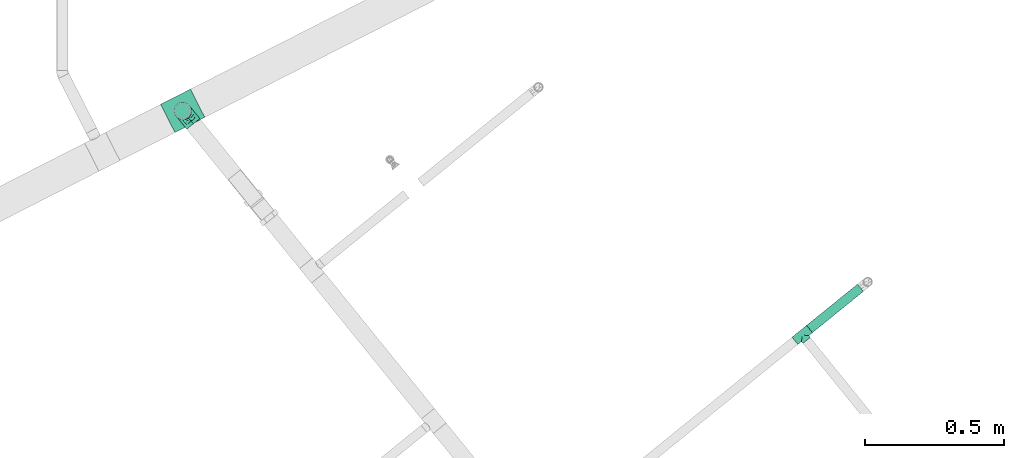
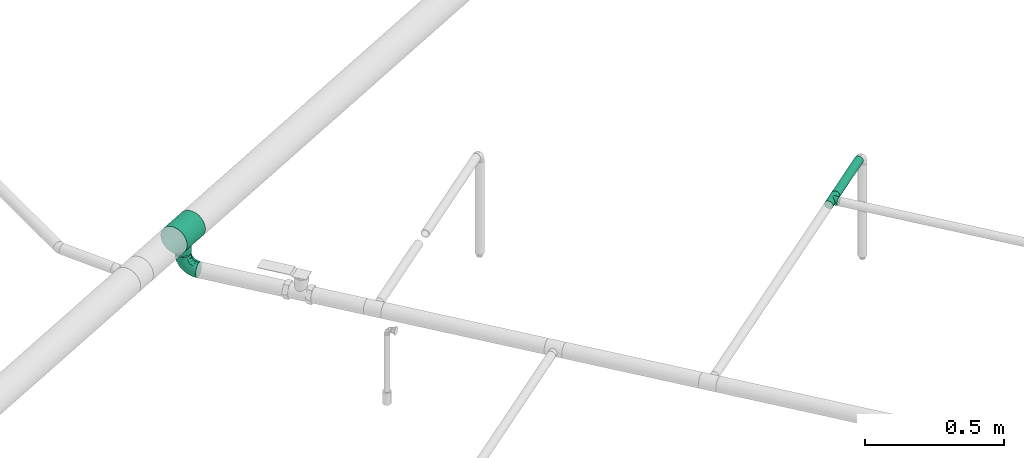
# One storey, part 19 of 94: 3 flow fittings, 1 flow segment.
"""IFC2X3 building model written with IfcOpenShell, lengths in millimetres."""

from ifc_helpers import new_model, entity, si_unit, converted_unit, derived_unit, direction, frame, origin_with_axes, origin_2d_with_axis, place, context, subcontext, project, spatial, hollow_circle, extrude, open_shell, surface_model, source, transform, mapped, type_object, element, save


model = new_model("IFC2X3")

# Units and contexts
model_context = context("Model", 3, precision=0.01, world=frame((0.0, 4.29681676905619e-09, 0.0)), true_north=direction((4.01073788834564e-13, 1.0)))
plan_context = context("Plan", 3, precision=0.01, world=frame((0.0, 4.29681676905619e-09, 0.0)), true_north=direction((4.01073788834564e-13, 1.0)))
body_context = subcontext(model_context, "Body", "Model", "MODEL_VIEW")
ifc_project = project(units=[converted_unit("PLANEANGLEUNIT", "DEGREE", entity("IfcPositiveLengthMeasure", 0.0174532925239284), si_unit("PLANEANGLEUNIT", "RADIAN"), dimensions=[0, 0, 0, 0, 0, 0, 0]), si_unit("AREAUNIT", "SQUARE_METRE"), si_unit("LENGTHUNIT", "METRE", prefix="MILLI"), si_unit("MASSUNIT", "GRAM", prefix="KILO"), si_unit("POWERUNIT", "WATT"), si_unit("PRESSUREUNIT", "PASCAL", prefix="KILO"), si_unit("FORCEUNIT", "NEWTON", prefix="KILO"), si_unit("ELECTRICVOLTAGEUNIT", "VOLT"), si_unit("ELECTRICCURRENTUNIT", "AMPERE"), si_unit("THERMODYNAMICTEMPERATUREUNIT", "DEGREE_CELSIUS"), si_unit("TIMEUNIT", "SECOND"), si_unit("VOLUMEUNIT", "CUBIC_METRE"), derived_unit("LINEARVELOCITYUNIT", [(si_unit("LENGTHUNIT", "METRE"), 1), (si_unit("TIMEUNIT", "SECOND"), -1)]), derived_unit("VOLUMETRICFLOWRATEUNIT", [(si_unit("VOLUMEUNIT", "CUBIC_METRE"), 1), (si_unit("TIMEUNIT", "SECOND"), -1)]), derived_unit("THERMALTRANSMITTANCEUNIT", [(si_unit("POWERUNIT", "WATT"), 1), (si_unit("THERMODYNAMICTEMPERATUREUNIT", "KELVIN"), -1), (si_unit("AREAUNIT", "SQUARE_METRE"), -1)]), derived_unit("SOUNDPRESSUREUNIT", [(si_unit("PRESSUREUNIT", "PASCAL"), 1)])], contexts=[model_context, plan_context])

# Site, building, storey
site_placement = place(None, frame((0.0, -4.29681676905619e-09, 0.0), z_axis=(0.0, 0.0, 1.0), x_axis=(1.0, 0.0, 0.0)))
site = spatial("IfcSite", under=ifc_project, at=site_placement, CompositionType="ELEMENT")
building_placement = place(site_placement, frame((0.0, 4.29681676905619e-09, 0.0), z_axis=(0.0, 0.0, 1.0), x_axis=(1.0, 0.0, 0.0)))
building = spatial("IfcBuilding", under=site, at=building_placement, Name="mc-building", CompositionType="ELEMENT")
storey_placement = place(building_placement, frame((0.0, 0.0, 210900.0), z_axis=(0.0, 0.0, 1.0), x_axis=(1.0, 0.0, 0.0)))
storey = spatial("IfcBuildingStorey", under=building, at=storey_placement, Name="Nivå F", CompositionType="ELEMENT", Elevation=210900.0)

# Flow fittings
pipe_fitting_type_1 = type_object("IfcPipeFittingType", Name="magi_pipe_fe_tee_centric_90_NOR", PredefinedType="JUNCTION")
shared_shape_1 = source(origin_with_axes(), body_context, "Body", "SurfaceModel", [
    surface_model("IfcShellBasedSurfaceModel", [(-33.8, 4.37404, -16.32415), (-33.8, 0.0, -16.9), (-33.8, 16.32415, -4.37404), (-33.8, 8.45, -14.63583), (-33.8, 11.9501, -11.9501), (-33.8, 14.63583, -8.45), (-33.8, -16.9, 0.0), (-33.8, -11.9501, -11.9501), (-33.8, -14.63583, -8.45), (-33.8, -8.45, -14.63583), (-33.8, -4.37404, -16.32415), (-33.8, -16.32415, -4.37404), (-33.8, 14.63583, 8.45), (-33.8, 16.32415, 4.37404), (-33.8, -8.45, 14.63583), (-33.8, 8.45, 14.63583), (-33.8, 11.9501, 11.9501), (-33.8, 4.37404, 16.32415), (-33.8, 0.0, 16.9), (-33.8, -11.9501, 11.9501), (-33.8, -14.63583, 8.45), (-33.8, -16.32415, 4.37404), (-33.8, -4.37404, 16.32415), (-33.8, 16.9, 0.0), (33.8, 4.37404, -16.32415), (33.8, -16.9, 0.0), (33.8, 0.0, -16.9), (33.8, 14.63583, -8.45), (33.8, 8.45, -14.63583), (33.8, 16.32415, -4.37404), (33.8, 11.9501, -11.9501), (33.8, -16.32415, 4.37404), (33.8, -8.45, -14.63583), (33.8, -4.37404, -16.32415), (33.8, -11.9501, -11.9501), (33.8, -14.63583, -8.45), (33.8, -16.32415, -4.37404), (33.8, 16.32415, 4.37404), (33.8, 8.45, 14.63583), (33.8, 14.63583, 8.45), (33.8, 11.9501, 11.9501), (33.8, -8.45, 14.63583), (33.8, 4.37404, 16.32415), (33.8, -14.63583, 8.45), (33.8, -11.9501, 11.9501), (33.8, 0.0, 16.9), (33.8, -4.37404, 16.32415), (33.8, 16.9, 0.0), (16.28698, -16.28698, 4.51047), (16.9, -16.9, 0.0), (14.62704, -14.62704, 8.4652), (9.47213, -9.47213, 13.99602), (12.26343, -12.26343, 11.62834), (-16.9, -16.9, 0.0), (-16.28698, -16.28698, 4.51047), (-14.62704, -14.62704, 8.4652), (-12.26343, -12.26343, 11.62834), (-9.47213, -9.47213, 13.99602), (-6.42894, -6.42894, 15.62942), (6.42894, -6.42894, 15.62942), (3.24522, -3.24522, 16.58549), (0.0, 0.0, 16.9), (-3.24522, -3.24522, 16.58549), (3.24522, -3.24522, -16.58549), (0.0, 0.0, -16.9), (-3.24522, -3.24522, -16.58549), (-6.42894, -6.42894, -15.62942), (6.42894, -6.42894, -15.62942), (9.47213, -9.47213, -13.99602), (12.26343, -12.26343, -11.62834), (14.62704, -14.62704, -8.4652), (16.28698, -16.28698, -4.51047), (-9.47213, -9.47213, -13.99602), (-12.26343, -12.26343, -11.62834), (-16.28698, -16.28698, -4.51047), (-14.62704, -14.62704, -8.4652), (4.37404, -25.35, -16.32415), (-16.9, -25.35, 0.0), (0.0, -25.35, -16.9), (14.63583, -25.35, -8.45), (8.45, -25.35, -14.63583), (16.32415, -25.35, -4.37404), (11.9501, -25.35, -11.9501), (-11.9501, -25.35, -11.9501), (-8.45, -25.35, -14.63583), (-4.37404, -25.35, -16.32415), (-14.63583, -25.35, -8.45), (-16.32415, -25.35, -4.37404), (16.9, -25.35, 0.0), (8.45, -25.35, 14.63583), (16.32415, -25.35, 4.37404), (14.63583, -25.35, 8.45), (-8.45, -25.35, 14.63583), (11.9501, -25.35, 11.9501), (4.37404, -25.35, 16.32415), (-16.32415, -25.35, 4.37404), (-11.9501, -25.35, 11.9501), (-14.63583, -25.35, 8.45), (0.0, -25.35, 16.9), (-4.37404, -25.35, 16.32415)], [open_shell([[[0, 1, 2]], [[3, 0, 4]], [[0, 2, 5]], [[4, 0, 5]], [[6, 2, 1]], [[7, 8, 9]], [[1, 10, 9]], [[11, 6, 8]], [[1, 9, 8]], [[1, 8, 6]], [[6, 12, 2]], [[12, 13, 2]], [[14, 12, 6]], [[12, 14, 15]], [[16, 12, 15]], [[17, 15, 18]], [[19, 14, 20]], [[21, 20, 14]], [[22, 18, 14]], [[14, 6, 21]], [[14, 18, 15]], [[23, 2, 13]], [[24, 25, 26]], [[27, 24, 28]], [[27, 29, 24]], [[27, 28, 30]], [[31, 25, 24]], [[26, 32, 33]], [[26, 34, 32]], [[35, 25, 36]], [[35, 34, 26]], [[25, 35, 26]], [[24, 29, 31]], [[29, 37, 38]], [[38, 37, 39]], [[38, 31, 29]], [[38, 39, 40]], [[41, 38, 42]], [[43, 41, 44]], [[41, 43, 31]], [[41, 45, 46]], [[41, 31, 38]], [[42, 45, 41]], [[29, 47, 37]], [[31, 43, 48]], [[25, 31, 49]], [[49, 31, 48]], [[43, 50, 48]], [[44, 41, 51]], [[50, 43, 52]], [[51, 52, 44]], [[52, 43, 44]], [[53, 54, 21]], [[53, 21, 6]], [[21, 54, 20]], [[54, 55, 20]], [[56, 57, 19]], [[19, 20, 56]], [[19, 57, 14]], [[56, 20, 55]], [[14, 57, 58]], [[51, 41, 59]], [[60, 45, 61]], [[59, 46, 60]], [[46, 59, 41]], [[60, 46, 45]], [[61, 45, 42]], [[39, 37, 13]], [[16, 38, 40]], [[12, 40, 39]], [[42, 38, 15]], [[23, 37, 47]], [[62, 61, 18]], [[62, 22, 58]], [[22, 62, 18]], [[58, 22, 14]], [[61, 17, 18]], [[42, 17, 61]], [[15, 17, 42]], [[15, 38, 16]], [[12, 16, 40]], [[13, 12, 39]], [[37, 23, 13]], [[5, 27, 30]], [[23, 47, 29]], [[30, 28, 3]], [[27, 2, 29]], [[26, 33, 63]], [[26, 64, 24]], [[64, 26, 63]], [[28, 24, 0]], [[64, 0, 24]], [[4, 30, 3]], [[2, 27, 5]], [[5, 30, 4]], [[2, 23, 29]], [[65, 66, 10]], [[1, 0, 64]], [[1, 65, 10]], [[66, 9, 10]], [[0, 3, 28]], [[1, 64, 65]], [[63, 33, 67]], [[32, 34, 68]], [[69, 68, 34]], [[35, 70, 69]], [[69, 34, 35]], [[32, 68, 67]], [[36, 25, 49]], [[36, 71, 35]], [[71, 36, 49]], [[35, 71, 70]], [[72, 9, 66]], [[72, 7, 9]], [[7, 72, 73]], [[7, 73, 8]], [[74, 53, 11]], [[75, 74, 8]], [[74, 11, 8]], [[11, 53, 6]], [[75, 8, 73]], [[32, 67, 33]], [[76, 77, 78]], [[79, 76, 80]], [[79, 81, 76]], [[79, 80, 82]], [[77, 76, 81]], [[78, 83, 84]], [[84, 85, 78]], [[86, 77, 87]], [[83, 78, 86]], [[77, 86, 78]], [[81, 88, 77]], [[89, 88, 90]], [[89, 90, 91]], [[92, 77, 89]], [[89, 91, 93]], [[92, 89, 94]], [[95, 96, 97]], [[96, 95, 92]], [[92, 98, 99]], [[95, 77, 92]], [[94, 98, 92]], [[89, 77, 88]], [[77, 95, 53]], [[54, 53, 95]], [[97, 96, 56]], [[96, 92, 57]], [[95, 97, 54]], [[58, 92, 99]], [[55, 54, 97]], [[56, 55, 97]], [[58, 57, 92]], [[98, 61, 62]], [[58, 99, 62]], [[56, 96, 57]], [[62, 99, 98]], [[94, 60, 98]], [[89, 59, 94]], [[91, 90, 48]], [[52, 93, 91]], [[93, 51, 89]], [[49, 90, 88]], [[59, 60, 94]], [[51, 59, 89]], [[49, 48, 90]], [[50, 52, 91]], [[48, 50, 91]], [[51, 93, 52]], [[98, 60, 61]], [[88, 81, 49]], [[71, 49, 81]], [[79, 82, 69]], [[82, 80, 68]], [[81, 79, 71]], [[67, 80, 76]], [[70, 71, 79]], [[69, 70, 79]], [[67, 68, 80]], [[78, 64, 63]], [[67, 76, 63]], [[69, 82, 68]], [[63, 76, 78]], [[85, 65, 78]], [[84, 66, 85]], [[86, 87, 74]], [[86, 73, 83]], [[72, 84, 83]], [[53, 87, 77]], [[66, 65, 85]], [[72, 66, 84]], [[53, 74, 87]], [[75, 73, 86]], [[74, 75, 86]], [[72, 83, 73]], [[78, 65, 64]]])]),
])
flow_fitting_1_placement = place(storey_placement, frame((726485.43467, 444568.60241, 3500.0), z_axis=(0.0, 0.0, -1.0), x_axis=(-0.777146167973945, -0.629320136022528, 0.0)))
element("IfcFlowFitting", 1, at=flow_fitting_1_placement, inside=storey, type_object=pipe_fitting_type_1, Name="magi_pipe_fe_tee_centric_90_NOR", context=body_context, shape_type="MappedRepresentation", body=[
    mapped(shared_shape_1, transform((0.0, 0.0, 0.0), scale=1.0)),
])
pipe_fitting_type_2 = type_object("IfcPipeFittingType", Name="magi_pipe_fe_elbow_short_001", PredefinedType="BEND")
shared_shape_2 = source(origin_with_axes(), body_context, "Body", "SurfaceModel", [
    surface_model("IfcShellBasedSurfaceModel", [(-60.4, 15.1, -26.15397), (-60.4, 7.81634, -29.17096), (-60.4, 0.0, -30.2), (-60.4, -21.35462, -21.35462), (-60.4, 26.15397, -15.1), (-60.4, 21.35462, -21.35462), (-60.4, 29.17096, -7.81634), (-60.4, -15.1, -26.15397), (-60.4, -7.81634, -29.17096), (-60.4, -26.15397, -15.1), (-60.4, -29.17096, -7.81634), (-60.4, -30.2, 0.0), (-60.4, -29.17096, 7.81634), (-60.4, 29.17096, 7.81634), (-60.4, -21.35462, 21.35462), (-60.4, 26.15397, 15.1), (-60.4, 21.35462, 21.35462), (-60.4, 7.81634, 29.17096), (-60.4, 15.1, 26.15397), (-60.4, -26.15397, 15.1), (-60.4, -7.81634, 29.17096), (-60.4, 0.0, 30.2), (-60.4, -15.1, 26.15397), (-60.4, 30.2, 0.0), (0.0, 60.4, -30.2), (-7.81634, 60.4, -29.17096), (-15.1, 60.4, -26.15397), (-26.15397, 60.4, -15.1), (-29.17096, 60.4, -7.81634), (-21.35462, 60.4, -21.35462), (29.17096, 60.4, -7.81634), (7.81634, 60.4, -29.17096), (21.35462, 60.4, -21.35462), (15.1, 60.4, -26.15397), (26.15397, 60.4, -15.1), (29.17096, 60.4, 7.81634), (30.2, 60.4, 0.0), (-29.17096, 60.4, 7.81634), (21.35462, 60.4, 21.35462), (-21.35462, 60.4, 21.35462), (-26.15397, 60.4, 15.1), (-15.1, 60.4, 26.15397), (-7.81634, 60.4, 29.17096), (26.15397, 60.4, 15.1), (15.1, 60.4, 26.15397), (0.0, 60.4, 30.2), (7.81634, 60.4, 29.17096), (-30.2, 60.4, 0.0), (-40.79975, -26.48639, 9.49143), (-44.2927, -23.46036, 16.95222), (-32.40306, -25.76572, 0.0), (-45.54716, -27.84754, 0.0), (-7.73382, -10.42985, 11.64553), (-2.102, -8.06735, 6.35117), (1.74449, -1.74448, 12.51332), (-46.13593, -4.00068, 29.68351), (-42.2898, 4.62925, 30.14853), (10.31662, 7.37496, 11.34434), (18.44156, 24.57514, 15.02148), (7.07276, 10.95732, 19.27498), (-30.06693, -0.27102, 29.27145), (-44.17726, -11.39441, 27.16031), (-23.4551, -7.13383, 25.24246), (-38.74025, -17.25266, 22.43475), (-27.059, -23.14697, 6.2131), (-19.77486, -19.33133, 0.0), (-10.95732, -7.07276, 19.27498), (-5.39458, 5.39458, 24.69106), (-29.52069, 48.20084, 13.12597), (-25.22813, 47.01796, 19.8404), (-11.27311, 52.093, 28.2877), (-4.13904, 45.17494, 30.12582), (-46.55352, 11.8443, 28.52822), (-7.88305, 20.22717, 29.65331), (-15.00576, 5.54025, 28.20072), (-3.0852, 16.31623, 27.75343), (-52.24998, 18.2886, 24.60768), (-10.49591, 29.69865, 30.14582), (-22.36958, 22.36958, 29.4662), (-17.98262, 13.19715, 30.04443), (-47.74519, 32.16745, 6.63994), (-48.21585, 29.51581, 13.12396), (-37.49729, 37.49729, 11.28901), (-47.20967, 25.1754, 19.81929), (17.25266, 38.74025, 22.43475), (-31.32046, 40.03273, 17.09289), (11.39441, 44.17725, 27.16031), (23.46036, 44.2927, 16.95222), (26.48639, 40.79975, 9.49143), (-7.14666, -12.89694, 0.0), (-14.66463, -16.61192, 7.82462), (4.00068, 46.13593, 29.68351), (-33.18602, 12.93608, 29.65955), (-29.63414, 7.40029, 30.18711), (19.33133, 19.77486, 0.0), (23.14697, 27.059, 6.2131), (16.61192, 14.66463, 7.82462), (27.84754, 45.54716, 0.0), (-32.10611, 20.49149, 27.93323), (-24.57514, -18.44156, 15.02148), (-21.89487, 39.03366, 25.38224), (-18.45005, 50.6405, 24.73297), (-31.78933, 48.71949, 6.47886), (-37.84917, 39.61073, 5.315), (13.91334, 24.32737, 20.46816), (7.13383, 23.4551, 25.24246), (-34.24603, 45.3, 0.0), (-27.95749, 31.89166, 24.81537), (-41.58677, 20.50028, 25.43151), (-0.46157, 0.46157, 17.84239), (-17.23338, 31.26213, 29.03145), (-24.05994, 29.23812, 27.47858), (-13.06094, 40.92174, 28.76128), (-31.83392, 33.72702, 21.39203), (-38.78737, 32.45032, 16.84022), (0.27102, 30.06693, 29.27145), (-24.21469, -13.23741, 21.05734), (8.23548, 2.19333, 6.02161), (25.76572, 32.40306, 0.0), (12.89694, 7.14666, 0.0), (-45.3, 34.24603, 0.0), (2.87514, -2.87514, 0.0), (-44.53432, 26.00869, -20.11577), (-48.18822, 29.5248, -13.12766), (-24.67192, -7.62159, -25.33714), (-26.22398, -0.37671, -28.72374), (-12.13397, -0.50536, -24.74577), (-47.80891, 3.81859, -30.10171), (-44.05719, -27.03585, -9.84546), (-37.94552, -22.39569, -16.35738), (-28.81663, -22.64668, -10.132), (-43.93799, 12.32789, -28.63778), (-33.27, 7.1392, -30.19348), (-26.0087, 44.53432, -20.11577), (-48.89164, 31.68872, -6.60822), (-18.95522, 47.41145, -24.9828), (-12.32789, 43.93799, -28.63778), (-38.42778, 38.42778, -7.21049), (18.04263, 43.69152, -22.80146), (10.42233, 38.24532, -26.85918), (11.90576, 51.00473, -27.48545), (-5.88381, -10.62327, -7.95335), (-5.9694, -7.83116, -13.76182), (3.24899, -2.56331, -7.96861), (-17.62229, 16.32998, -30.18286), (-28.62959, 17.86952, -29.30113), (-47.41145, 18.95522, -24.98279), (-50.84455, -24.04089, -17.54629), (-29.38053, 34.30665, -22.74674), (-27.91099, 27.91099, -26.51666), (-36.91219, 25.51094, -23.99233), (2.63361, -0.55507, -12.94367), (-43.69152, -18.04263, -22.80146), (22.39569, 37.94552, -16.35738), (27.03585, 44.05719, -9.84546), (22.64668, 28.81663, -10.132), (-51.00473, -11.90576, -27.48545), (3.80785, 44.49426, -29.64782), (-19.0921, -14.69952, -16.47487), (-22.5489, -12.31934, -21.1263), (-10.94772, -7.46239, -18.88204), (-32.95885, -13.78948, -23.71249), (-38.24532, -10.42233, -26.85918), (-44.49427, -3.80785, -29.64782), (-22.6301, 37.15314, -25.58239), (-31.68872, 48.89164, -6.60822), (-3.8186, 47.80891, -30.10171), (-10.66133, 10.66133, -28.51691), (0.37671, 26.22398, -28.72374), (1.27136, 14.18619, -25.18541), (-29.5248, 48.18821, -13.12766), (-36.27113, 36.27113, -14.88553), (24.04089, 50.84455, -17.54629), (17.50188, 24.2636, -16.21902), (9.73525, 11.44907, -16.75087), (12.31934, 22.5489, -21.1263), (6.24176, 25.78208, -26.38266), (-7.1392, 33.27, -30.19348), (-36.7166, 19.4356, -27.21946), (-18.00754, 29.38864, -29.15505), (-0.28629, 0.28629, -17.49884), (-13.98848, -16.88492, -5.19509), (15.48569, 15.00432, -11.24742), (16.88492, 13.98848, -5.19509), (3.55782, 9.20508, -21.18402), (-15.00432, -15.48569, -11.24742)], [open_shell([[[0, 1, 2]], [[0, 2, 3]], [[4, 0, 3]], [[5, 0, 4]], [[6, 4, 3]], [[7, 3, 8]], [[3, 2, 8]], [[9, 10, 3]], [[3, 10, 6]], [[11, 12, 10]], [[13, 6, 10]], [[13, 10, 14]], [[15, 13, 16]], [[17, 18, 16]], [[13, 17, 16]], [[17, 13, 14]], [[19, 14, 12]], [[12, 14, 10]], [[20, 21, 22]], [[17, 14, 22]], [[17, 22, 21]], [[13, 23, 6]], [[24, 25, 26]], [[24, 26, 27]], [[27, 28, 24]], [[27, 26, 29]], [[24, 28, 30]], [[31, 32, 33]], [[31, 24, 32]], [[32, 30, 34]], [[24, 30, 32]], [[30, 35, 36]], [[30, 28, 37]], [[38, 30, 37]], [[39, 37, 40]], [[39, 41, 42]], [[39, 42, 37]], [[38, 37, 42]], [[35, 38, 43]], [[30, 38, 35]], [[44, 45, 46]], [[44, 38, 42]], [[45, 44, 42]], [[28, 47, 37]], [[48, 49, 19]], [[50, 48, 51]], [[52, 53, 54]], [[12, 48, 19]], [[12, 51, 48]], [[21, 55, 56]], [[19, 49, 14]], [[57, 58, 59]], [[60, 61, 62]], [[63, 22, 14]], [[63, 61, 22]], [[64, 50, 65]], [[62, 66, 67]], [[40, 68, 69]], [[42, 70, 71]], [[17, 72, 18]], [[73, 74, 75]], [[18, 76, 16]], [[20, 55, 21]], [[77, 78, 79]], [[80, 81, 82]], [[15, 83, 81]], [[84, 38, 44]], [[23, 13, 80]], [[13, 15, 81]], [[68, 85, 69]], [[83, 15, 16]], [[21, 56, 17]], [[44, 86, 84]], [[16, 76, 83]], [[87, 58, 88]], [[40, 37, 68]], [[89, 90, 65]], [[45, 91, 46]], [[65, 90, 64]], [[45, 42, 71]], [[92, 93, 79]], [[88, 35, 43]], [[43, 38, 87]], [[87, 88, 43]], [[94, 95, 96]], [[88, 97, 35]], [[98, 72, 92]], [[49, 99, 63]], [[69, 100, 101]], [[82, 102, 103]], [[104, 105, 59]], [[106, 102, 47]], [[98, 107, 108]], [[102, 82, 68]], [[86, 44, 46]], [[69, 39, 40]], [[109, 54, 57]], [[110, 100, 111]], [[22, 61, 20]], [[101, 41, 39]], [[70, 42, 41]], [[112, 77, 71]], [[84, 86, 105]], [[96, 95, 58]], [[100, 69, 113]], [[72, 17, 56]], [[108, 113, 83]], [[81, 114, 82]], [[112, 110, 77]], [[91, 71, 115]], [[62, 61, 63]], [[55, 61, 60]], [[116, 99, 66]], [[74, 62, 67]], [[91, 86, 46]], [[105, 86, 115]], [[75, 105, 115]], [[109, 67, 66]], [[59, 105, 67]], [[48, 64, 99]], [[99, 49, 48]], [[63, 14, 49]], [[38, 84, 87]], [[58, 87, 84]], [[92, 72, 56]], [[76, 72, 108]], [[102, 68, 37]], [[82, 114, 85]], [[98, 111, 107]], [[112, 70, 101]], [[114, 83, 113]], [[82, 103, 80]], [[92, 79, 78]], [[115, 71, 77]], [[74, 79, 60]], [[77, 79, 73]], [[71, 91, 45]], [[86, 91, 115]], [[61, 55, 20]], [[56, 55, 60]], [[57, 54, 117]], [[104, 59, 58]], [[116, 66, 62]], [[52, 99, 90]], [[12, 11, 51]], [[97, 88, 118]], [[97, 36, 35]], [[53, 90, 89]], [[90, 53, 52]], [[94, 96, 119]], [[88, 95, 118]], [[117, 54, 53]], [[92, 56, 93]], [[98, 92, 78]], [[111, 98, 78]], [[72, 98, 108]], [[110, 111, 78]], [[107, 111, 100]], [[47, 102, 37]], [[102, 106, 103]], [[106, 120, 103]], [[103, 120, 80]], [[23, 80, 120]], [[13, 81, 80]], [[56, 60, 93]], [[60, 79, 93]], [[117, 121, 119]], [[121, 117, 53]], [[53, 89, 121]], [[119, 96, 117]], [[117, 96, 57]], [[77, 110, 78]], [[100, 110, 112]], [[83, 114, 81]], [[85, 114, 113]], [[69, 85, 113]], [[82, 85, 68]], [[109, 52, 54]], [[99, 52, 66]], [[69, 101, 39]], [[112, 101, 100]], [[100, 113, 107]], [[108, 107, 113]], [[62, 74, 60]], [[75, 74, 67]], [[105, 75, 67]], [[73, 75, 115]], [[77, 73, 115]], [[74, 73, 79]], [[99, 64, 90]], [[50, 64, 48]], [[118, 95, 94]], [[58, 95, 88]], [[58, 57, 96]], [[109, 57, 59]], [[72, 76, 18]], [[83, 76, 108]], [[101, 70, 41]], [[71, 70, 112]], [[58, 84, 104]], [[105, 104, 84]], [[67, 109, 59]], [[52, 109, 66]], [[62, 63, 116]], [[99, 116, 63]], [[122, 4, 123]], [[124, 125, 126]], [[2, 1, 127]], [[128, 129, 130]], [[127, 131, 132]], [[27, 29, 133]], [[120, 134, 23]], [[135, 26, 136]], [[123, 134, 137]], [[138, 139, 140]], [[122, 5, 4]], [[141, 142, 143]], [[144, 132, 145]], [[131, 0, 146]], [[128, 9, 147]], [[148, 149, 150]], [[128, 51, 10]], [[142, 151, 143]], [[152, 3, 7]], [[153, 154, 155]], [[156, 152, 7]], [[31, 157, 24]], [[158, 159, 160]], [[147, 9, 3]], [[129, 152, 161]], [[156, 7, 8]], [[162, 163, 125]], [[154, 34, 30]], [[120, 106, 137]], [[149, 148, 164]], [[47, 28, 165]], [[163, 8, 2]], [[4, 6, 123]], [[25, 166, 136]], [[167, 168, 169]], [[170, 133, 171]], [[25, 24, 166]], [[33, 32, 138]], [[157, 31, 140]], [[28, 27, 170]], [[32, 34, 172]], [[26, 135, 29]], [[132, 131, 145]], [[31, 33, 140]], [[173, 174, 175]], [[169, 168, 176]], [[25, 136, 26]], [[175, 138, 173]], [[168, 177, 157]], [[163, 162, 156]], [[153, 172, 154]], [[9, 128, 10]], [[154, 97, 118]], [[131, 178, 145]], [[0, 5, 146]], [[175, 139, 138]], [[155, 118, 94]], [[131, 1, 0]], [[146, 178, 131]], [[170, 137, 165]], [[149, 179, 145]], [[171, 133, 148]], [[160, 180, 142]], [[65, 181, 89]], [[170, 165, 28]], [[137, 171, 123]], [[172, 138, 32]], [[138, 153, 173]], [[168, 157, 139]], [[166, 157, 177]], [[176, 175, 169]], [[168, 167, 144]], [[154, 30, 97]], [[155, 182, 173]], [[162, 124, 161]], [[147, 152, 129]], [[127, 163, 2]], [[132, 144, 125]], [[132, 125, 163]], [[125, 167, 126]], [[129, 158, 130]], [[30, 36, 97]], [[143, 182, 183]], [[169, 126, 167]], [[5, 122, 146]], [[178, 150, 149]], [[136, 179, 164]], [[133, 29, 135]], [[123, 6, 134]], [[122, 123, 171]], [[133, 170, 27]], [[137, 170, 171]], [[184, 175, 174]], [[180, 160, 126]], [[126, 169, 184]], [[126, 159, 124]], [[51, 128, 50]], [[51, 11, 10]], [[131, 127, 1]], [[163, 127, 132]], [[157, 166, 24]], [[136, 166, 177]], [[164, 179, 149]], [[144, 167, 125]], [[179, 144, 145]], [[168, 144, 177]], [[136, 177, 179]], [[144, 179, 177]], [[141, 121, 89]], [[89, 181, 141]], [[154, 118, 155]], [[183, 155, 94]], [[143, 183, 119]], [[119, 183, 94]], [[155, 183, 182]], [[181, 130, 185]], [[50, 128, 130]], [[130, 181, 65]], [[50, 130, 65]], [[141, 181, 185]], [[142, 141, 185]], [[143, 121, 141]], [[158, 160, 142]], [[142, 180, 151]], [[158, 142, 185]], [[126, 160, 159]], [[130, 158, 185]], [[129, 159, 158]], [[23, 134, 6]], [[120, 137, 134]], [[137, 106, 165]], [[47, 165, 106]], [[174, 151, 180]], [[182, 143, 151]], [[150, 146, 122]], [[149, 145, 178]], [[146, 150, 178]], [[122, 171, 148]], [[148, 150, 122]], [[164, 133, 135]], [[133, 164, 148]], [[164, 135, 136]], [[138, 140, 33]], [[157, 140, 139]], [[154, 172, 34]], [[138, 172, 153]], [[163, 156, 8]], [[152, 156, 162]], [[152, 147, 3]], [[128, 147, 129]], [[155, 173, 153]], [[174, 173, 182]], [[151, 174, 182]], [[174, 180, 184]], [[126, 184, 180]], [[175, 184, 169]], [[168, 139, 176]], [[175, 176, 139]], [[161, 124, 159]], [[125, 124, 162]], [[129, 161, 159]], [[162, 161, 152]], [[143, 119, 121]]])]),
])
flow_fitting_2_placement = place(storey_placement, frame((724253.77852, 445375.86836, 3500.0), z_axis=(-0.777146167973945, -0.629320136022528, 0.0), x_axis=(0.0, 0.0, -1.0)))
element("IfcFlowFitting", 2, at=flow_fitting_2_placement, inside=storey, type_object=pipe_fitting_type_2, Name="magi_pipe_fe_elbow_short_001", context=body_context, shape_type="MappedRepresentation", body=[
    mapped(shared_shape_2, transform((0.0, 0.0, 0.0), scale=1.0)),
])
shared_shape_3 = source(origin_with_axes(), body_context, "Body", "SurfaceModel", [
    surface_model("IfcShellBasedSurfaceModel", [(-60.4, 0.0, -57.2), (-60.4, -14.80445, -55.25096), (-60.4, 14.80445, -55.25096), (-60.4, 28.6, -49.53665), (-60.4, 40.44651, -40.44651), (-60.4, 55.25096, -14.80445), (-60.4, 49.53665, -28.6), (-60.4, -28.6, -49.53665), (-60.4, -40.44651, -40.44651), (-60.4, -49.53665, -28.6), (-60.4, -55.25096, -14.80445), (-60.4, -57.2, 0.0), (-60.4, -28.6, 49.53665), (-60.4, 49.53665, 28.6), (-60.4, 55.25096, 14.80445), (-60.4, 57.2, 0.0), (-60.4, 40.44651, 40.44651), (-60.4, 14.80445, 55.25096), (-60.4, 28.6, 49.53665), (-60.4, 0.0, 57.2), (-60.4, -55.25096, 14.80445), (-60.4, -49.53665, 28.6), (-60.4, -40.44651, 40.44651), (-60.4, -14.80445, 55.25096), (60.4, 14.80445, -55.25096), (60.4, -14.80445, -55.25096), (60.4, 0.0, -57.2), (60.4, 40.44651, -40.44651), (60.4, 28.6, -49.53665), (60.4, 49.53665, -28.6), (60.4, 55.25096, -14.80445), (60.4, -57.2, 0.0), (60.4, -40.44651, -40.44651), (60.4, -28.6, -49.53665), (60.4, -49.53665, -28.6), (60.4, -55.25096, -14.80445), (60.4, 49.53665, 28.6), (60.4, 57.2, 0.0), (60.4, 55.25096, 14.80445), (60.4, -28.6, 49.53665), (60.4, 40.44651, 40.44651), (60.4, 28.6, 49.53665), (60.4, 14.80445, 55.25096), (60.4, 0.0, 57.2), (60.4, -49.53665, 28.6), (60.4, -40.44651, 40.44651), (60.4, -55.25096, 14.80445), (60.4, -14.80445, 55.25096), (60.4, -56.22548, 7.40222), (28.32476, -56.23248, 10.47607), (30.2, -57.2, 0.0), (-28.3257, -56.23295, 10.47352), (-60.4, -56.22548, 7.40222), (-23.08822, -53.78537, 19.46725), (-5.34203, -48.87062, 29.72377), (5.33335, -48.86967, 29.72533), (23.0807, -53.78214, 19.47617), (60.4, -52.3938, 21.70223), (-15.1976, -50.89958, 26.09737), (-60.4, -52.3938, 21.70223), (15.19492, -50.89878, -26.09893), (60.4, -52.3938, -21.70223), (23.0807, -53.78214, -19.47617), (28.32476, -56.23248, -10.47607), (60.4, -56.22548, -7.40222), (-30.2, -57.2, 0.0), (-60.4, -56.22548, -7.40222), (-28.3257, -56.23295, -10.47352), (5.33335, -48.86967, -29.72533), (-23.08822, -53.78537, -19.46725), (-60.4, -52.3938, -21.70223), (-15.1976, -50.89958, -26.09737), (-21.35462, -85.8, -21.35462), (0.0, -85.8, -30.2), (7.81634, -85.8, -29.17096), (15.1, -85.8, -26.15397), (-30.2, -85.8, 0.0), (26.15397, -85.8, -15.1), (21.35462, -85.8, -21.35462), (26.15397, -85.8, 15.1), (-7.81634, -85.8, -29.17096), (-15.1, -85.8, -26.15397), (-29.17096, -85.8, -7.81634), (-26.15397, -85.8, -15.1), (29.17096, -85.8, -7.81634), (30.2, -85.8, 0.0), (29.17096, -85.8, 7.81634), (7.81634, -85.8, 29.17096), (15.1, -85.8, 26.15397), (21.35462, -85.8, 21.35462), (-21.35462, -85.8, 21.35462), (-26.15397, -85.8, 15.1), (-29.17096, -85.8, 7.81634), (-15.1, -85.8, 26.15397), (0.0, -85.8, 30.2), (-7.81634, -85.8, 29.17096), (-29.26285, -56.71648, 5.23676), (29.26238, -56.71624, 5.23804), (-10.26981, -49.8851, 27.91057), (10.26414, -49.88422, 27.91213), (-0.00434, -48.87015, 29.72455), (15.19492, -50.89878, 26.09893), (29.26238, -56.71624, -5.23804), (-29.26285, -56.71648, -5.23676), (10.26414, -49.88422, -27.91213), (-5.34203, -48.87062, -29.72377), (-0.00434, -48.87015, -29.72455), (-10.26981, -49.8851, -27.91057)], [open_shell([[[0, 1, 2]], [[3, 2, 4]], [[5, 6, 4]], [[2, 5, 4]], [[5, 2, 1]], [[7, 8, 1]], [[9, 1, 8]], [[10, 11, 9]], [[1, 9, 11]], [[12, 1, 11]], [[12, 5, 1]], [[13, 14, 15]], [[16, 13, 15]], [[17, 18, 16]], [[15, 17, 16]], [[19, 17, 15]], [[20, 21, 11]], [[21, 22, 11]], [[23, 19, 12]], [[22, 12, 11]], [[12, 19, 15]], [[15, 5, 12]], [[24, 25, 26]], [[27, 24, 28]], [[27, 29, 30]], [[25, 24, 27]], [[31, 27, 30]], [[25, 32, 33]], [[25, 27, 32]], [[27, 34, 32]], [[27, 35, 34]], [[31, 35, 27]], [[30, 36, 31]], [[37, 38, 36]], [[36, 39, 31]], [[40, 41, 42]], [[40, 42, 36]], [[43, 36, 42]], [[44, 39, 45]], [[44, 46, 31]], [[39, 43, 47]], [[31, 39, 44]], [[36, 43, 39]], [[36, 30, 37]], [[48, 46, 49]], [[50, 31, 48]], [[39, 12, 45]], [[51, 20, 52]], [[51, 53, 20]], [[21, 54, 22]], [[54, 55, 22]], [[56, 46, 57]], [[42, 41, 18]], [[50, 48, 49]], [[58, 59, 53]], [[28, 3, 27]], [[60, 61, 62]], [[63, 35, 64]], [[28, 2, 3]], [[65, 66, 67]], [[32, 8, 33]], [[63, 62, 35]], [[32, 68, 8]], [[69, 10, 70]], [[69, 67, 10]], [[70, 9, 71]], [[67, 66, 10]], [[66, 65, 11]], [[72, 73, 74]], [[75, 72, 74]], [[76, 75, 77]], [[77, 75, 78]], [[79, 76, 77]], [[80, 72, 81]], [[80, 73, 72]], [[72, 82, 83]], [[82, 72, 76]], [[75, 76, 72]], [[77, 84, 85]], [[85, 86, 79]], [[87, 76, 79]], [[88, 87, 79]], [[88, 79, 89]], [[76, 87, 90]], [[76, 91, 92]], [[90, 91, 76]], [[93, 94, 95]], [[94, 93, 90]], [[87, 94, 90]], [[79, 77, 85]], [[92, 96, 76]], [[97, 85, 50]], [[98, 93, 95]], [[98, 58, 93]], [[92, 51, 96]], [[51, 92, 91]], [[53, 91, 90]], [[96, 65, 76]], [[51, 91, 53]], [[88, 99, 87]], [[58, 53, 90]], [[95, 54, 98]], [[58, 90, 93]], [[94, 55, 100]], [[88, 101, 99]], [[97, 49, 86]], [[89, 101, 88]], [[49, 79, 86]], [[89, 79, 56]], [[55, 94, 87]], [[99, 55, 87]], [[100, 54, 94]], [[101, 89, 56]], [[56, 79, 49]], [[85, 97, 86]], [[94, 54, 95]], [[84, 102, 85]], [[62, 77, 78]], [[103, 76, 65]], [[84, 63, 102]], [[77, 63, 84]], [[75, 60, 78]], [[102, 50, 85]], [[63, 77, 62]], [[74, 68, 104]], [[60, 62, 78]], [[73, 105, 106]], [[81, 107, 80]], [[104, 60, 75]], [[81, 71, 107]], [[104, 75, 74]], [[103, 67, 82]], [[72, 71, 81]], [[67, 83, 82]], [[72, 83, 69]], [[105, 73, 80]], [[107, 105, 80]], [[106, 68, 73]], [[71, 72, 69]], [[69, 83, 67]], [[76, 103, 82]], [[73, 68, 74]], [[46, 56, 49]], [[44, 45, 55]], [[56, 57, 101]], [[55, 101, 44]], [[45, 22, 55]], [[101, 57, 44]], [[51, 52, 65]], [[11, 65, 52]], [[58, 54, 21]], [[21, 59, 58]], [[53, 59, 20]], [[45, 12, 22]], [[19, 47, 43]], [[23, 39, 47]], [[17, 43, 42]], [[36, 38, 14]], [[16, 41, 40]], [[13, 40, 36]], [[15, 38, 37]], [[12, 39, 23]], [[23, 47, 19]], [[17, 19, 43]], [[42, 18, 17]], [[18, 41, 16]], [[13, 16, 40]], [[14, 13, 36]], [[38, 15, 14]], [[15, 37, 30]], [[6, 29, 27]], [[5, 30, 29]], [[26, 25, 1]], [[2, 28, 24]], [[0, 24, 26]], [[33, 7, 25]], [[6, 27, 4]], [[15, 30, 5]], [[5, 29, 6]], [[4, 27, 3]], [[0, 2, 24]], [[1, 0, 26]], [[25, 7, 1]], [[33, 8, 7]], [[32, 34, 68]], [[60, 68, 34]], [[61, 60, 34]], [[31, 50, 64]], [[63, 64, 50]], [[35, 62, 61]], [[105, 71, 9]], [[9, 8, 105]], [[69, 70, 71]], [[105, 8, 68]]])]),
])
flow_fitting_3_placement = place(storey_placement, frame((724253.77852, 445375.86836, 3650.0), z_axis=(-0.453989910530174, 0.891006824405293, -2.64697796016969e-22), x_axis=(-0.891006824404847, -0.453989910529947, -9.99999802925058e-07)))
element("IfcFlowFitting", 3, at=flow_fitting_3_placement, inside=storey, type_object=pipe_fitting_type_1, Name="magi_pipe_fe_tee_centric_90_NOR", context=body_context, shape_type="MappedRepresentation", body=[
    mapped(shared_shape_3, transform((0.0, 0.0, 0.0), scale=1.0)),
])

# Flow segment
pipe_segment_type = type_object("IfcPipeSegmentType", Name="Stålrør normaltykke", PredefinedType="RIGIDSEGMENT")
shared_shape_4 = source(origin_with_axes(), body_context, "Body", "SweptSolid", [
    extrude(hollow_circle(Radius=16.9, WallThickness=2.0, at=origin_2d_with_axis()), frame((0.0, 0.0, 0.0), z_axis=(1.0, 0.0, 0.0), x_axis=(0.0, 1.0, 0.0)), (0.0, 0.0, 1.0), 236.3),
])
flow_segment_placement = place(storey_placement, frame((726511.7022, 444589.87344, 3500.0), z_axis=(0.0, 0.0, 1.0), x_axis=(0.777146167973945, 0.629320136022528, 0.0)))
element("IfcFlowSegment", 4, at=flow_segment_placement, inside=storey, type_object=pipe_segment_type, Name="Stålrør normaltykke", context=body_context, shape_type="MappedRepresentation", body=[
    mapped(shared_shape_4, transform((0.0, 0.0, 0.0), scale=1.0)),
])

save(model, "model.ifc")
